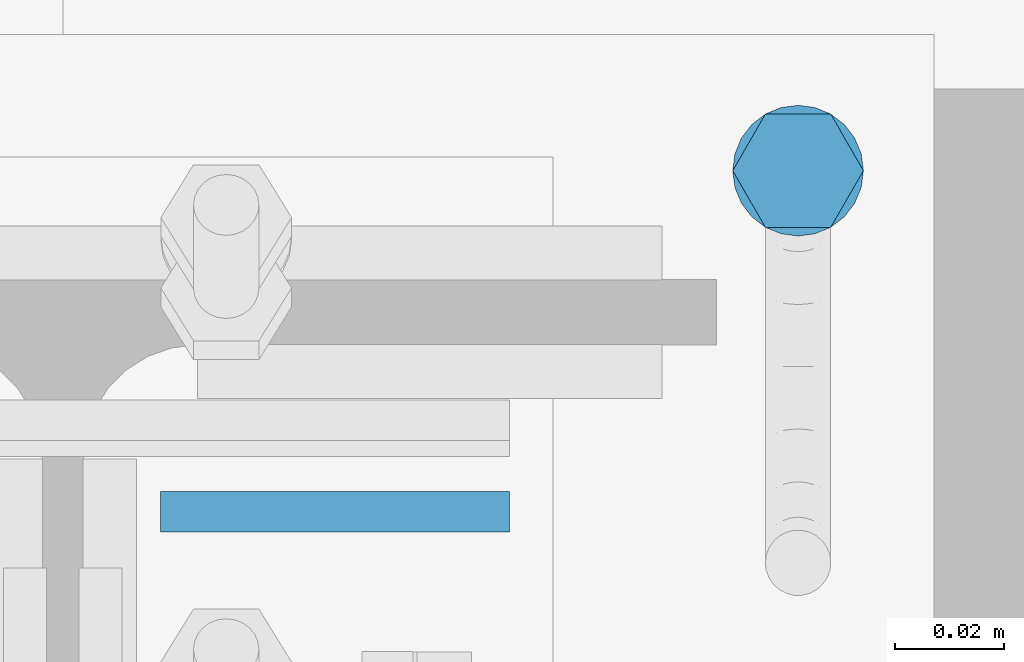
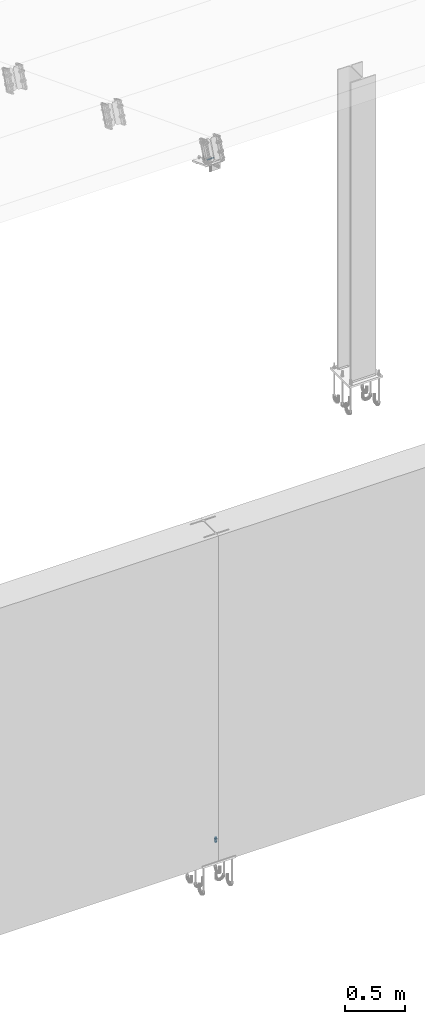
# One storey, part 53 of 72: 5 mechanical fasteners, 1 fastener.
"""IFC4 building model written with IfcOpenShell, lengths in metres."""

from ifc_helpers import new_model, si_unit, frame, origin_with_axes, place, context, project, spatial, polyline, outline, extrude, type_object, element, save


model = new_model("IFC4")

# Units and contexts
model_context = context("Model", 3, precision=1e-05, world=origin_with_axes())
ifc_project = project(units=[si_unit("LENGTHUNIT", "METRE"), si_unit("AREAUNIT", "SQUARE_METRE"), si_unit("VOLUMEUNIT", "CUBIC_METRE"), si_unit("MASSUNIT", "GRAM", prefix="KILO"), si_unit("TIMEUNIT", "SECOND"), si_unit("PLANEANGLEUNIT", "RADIAN"), si_unit("SOLIDANGLEUNIT", "STERADIAN"), si_unit("THERMODYNAMICTEMPERATUREUNIT", "DEGREE_CELSIUS")], contexts=[model_context])

# Site, building, storey
placement_1 = place(None, origin_with_axes())
site = spatial("IfcSite", under=ifc_project, at=placement_1, Name="Italia", CompositionType="ELEMENT")
building = spatial("IfcBuilding", under=site, at=placement_1, Name="Uffici", CompositionType="ELEMENT")
storey = spatial("IfcBuildingStorey", under=building, at=placement_1, Name="Storey 0", CompositionType="ELEMENT", Elevation=0.0)

# Mechanical fasteners
mechanical_fastener_type_1 = type_object("IfcMechanicalFastenerType", Name="Collegamenti 0001_0101 0002_0102 0003_0103 0004_0104 0005_0105 0011_0111 0012_0112 0013_0113 0014_0114 0015_0115", PredefinedType="BOLT")
placement_2 = place(placement_1, origin_with_axes())
mechanical_fastener_1_placement = place(placement_2, origin_with_axes())
element("IfcMechanicalFastener", 1, at=mechanical_fastener_1_placement, inside=storey, type_object=mechanical_fastener_type_1, Name="Collegamenti 0001_0101 0002_0102 0003_0103 0004_0104 0005_0105 0011_0111 0012_0112 0013_0113 0014_0114 0015_0115", NominalDiameter=0.0119998, context=model_context, shape_type="SweptSolid", body=[
    extrude(outline(polyline([(0.0, 0.0), (0.0, 0.0120001), (0.0103923, 0.0179996), (0.0207846, 0.0120001), (0.0207846, 0.0), (0.0103923, -0.00600052), (0.0, 0.0)])), frame((9.596, 0.124608, 0.022), z_axis=(0.0, 0.0, 1.0), x_axis=(0.0, 1.0, 0.0)), (0.0, 0.0, 1.0), 0.0096),
])
mechanical_fastener_type_2 = type_object("IfcMechanicalFastenerType", Name="Collegamenti 0001_0101 0002_0102 0003_0103 0004_0104 0005_0105 0011_0111 0012_0112 0013_0113 0014_0114 0015_0115", PredefinedType="BOLT")
mechanical_fastener_2_placement = place(placement_2, origin_with_axes())
element("IfcMechanicalFastener", 2, at=mechanical_fastener_2_placement, inside=storey, type_object=mechanical_fastener_type_2, Name="Collegamenti 0001_0101 0002_0102 0003_0103 0004_0104 0005_0105 0011_0111 0012_0112 0013_0113 0014_0114 0015_0115", NominalDiameter=0.0119998, context=model_context, shape_type="SweptSolid", body=[
    extrude(outline(polyline([(0.0, 0.0), (0.0, 0.0120001), (0.0103923, 0.0179996), (0.0207846, 0.0120001), (0.0207846, 0.0), (0.0103923, -0.00600052), (0.0, 0.0)])), frame((9.596, 0.124608, 0.0316), z_axis=(0.0, 0.0, 1.0), x_axis=(0.0, 1.0, 0.0)), (0.0, 0.0, 1.0), 0.0096),
])
mechanical_fastener_type_3 = type_object("IfcMechanicalFastenerType", Name="Collegamenti 0001_0101 0002_0102 0003_0103 0004_0104 0005_0105 0011_0111 0012_0112 0013_0113 0014_0114 0015_0115", PredefinedType="BOLT")
mechanical_fastener_3_placement = place(placement_2, origin_with_axes())
element("IfcMechanicalFastener", 3, at=mechanical_fastener_3_placement, inside=storey, type_object=mechanical_fastener_type_3, Name="Collegamenti 0001_0101 0002_0102 0003_0103 0004_0104 0005_0105 0011_0111 0012_0112 0013_0113 0014_0114 0015_0115", NominalDiameter=0.0119998, context=model_context, shape_type="SweptSolid", body=[
    extrude(outline(polyline([(0.0, 0.0), (0.0, 0.0120001), (0.0103923, 0.0179996), (0.0207846, 0.0120001), (0.0207846, 0.0), (0.0103923, -0.00600052), (0.0, 0.0)])), frame((9.596, 0.124608, -0.0116), z_axis=(0.0, 0.0, 1.0), x_axis=(0.0, 1.0, 0.0)), (0.0, 0.0, 1.0), 0.0096),
])
mechanical_fastener_type_4 = type_object("IfcMechanicalFastenerType", Name="Collegamenti 0001_0101 0002_0102 0003_0103 0004_0104 0005_0105 0011_0111 0012_0112 0013_0113 0014_0114 0015_0115", PredefinedType="BOLT")
mechanical_fastener_4_placement = place(placement_2, origin_with_axes())
element("IfcMechanicalFastener", 4, at=mechanical_fastener_4_placement, inside=storey, type_object=mechanical_fastener_type_4, Name="Collegamenti 0001_0101 0002_0102 0003_0103 0004_0104 0005_0105 0011_0111 0012_0112 0013_0113 0014_0114 0015_0115", NominalDiameter=0.024, context=model_context, shape_type="SweptSolid", body=[
    extrude(outline(polyline([(0.0, 0.0), (-0.000408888, -0.00310612), (-0.00160769, -0.00599957), (-0.00351471, -0.00848484), (-0.006, -0.0103922), (-0.00889416, -0.011591), (-0.012, -0.0120001), (-0.0151058, -0.011591), (-0.018, -0.0103922), (-0.0204853, -0.00848484), (-0.0223923, -0.00599957), (-0.0235911, -0.00310612), (-0.024, 0.0), (-0.0235911, 0.00310612), (-0.0223923, 0.00599957), (-0.0204853, 0.00848484), (-0.018, 0.0103922), (-0.0151058, 0.011591), (-0.012, 0.0120001), (-0.00889416, 0.011591), (-0.006, 0.0103922), (-0.00351471, 0.00848484), (-0.00160769, 0.00599957), (-0.000408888, 0.00310612), (0.0, 0.0)])), frame((9.59, 0.147, 0.02), z_axis=(0.0, 0.0, 1.0), x_axis=(0.0, 1.0, 0.0)), (0.0, 0.0, 1.0), 0.002),
])
mechanical_fastener_type_5 = type_object("IfcMechanicalFastenerType", Name="Collegamenti 0001_0101 0002_0102 0003_0103 0004_0104 0005_0105 0011_0111 0012_0112 0013_0113 0014_0114 0015_0115", PredefinedType="BOLT")
mechanical_fastener_5_placement = place(placement_2, origin_with_axes())
element("IfcMechanicalFastener", 5, at=mechanical_fastener_5_placement, inside=storey, type_object=mechanical_fastener_type_5, Name="Collegamenti 0001_0101 0002_0102 0003_0103 0004_0104 0005_0105 0011_0111 0012_0112 0013_0113 0014_0114 0015_0115", NominalDiameter=0.024, context=model_context, shape_type="SweptSolid", body=[
    extrude(outline(polyline([(0.0, 0.0), (-0.000408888, -0.00310612), (-0.00160769, -0.00599957), (-0.00351471, -0.00848484), (-0.006, -0.0103922), (-0.00889416, -0.011591), (-0.012, -0.0120001), (-0.0151058, -0.011591), (-0.018, -0.0103922), (-0.0204853, -0.00848484), (-0.0223923, -0.00599957), (-0.0235911, -0.00310612), (-0.024, 0.0), (-0.0235911, 0.00310612), (-0.0223923, 0.00599957), (-0.0204853, 0.00848484), (-0.018, 0.0103922), (-0.0151058, 0.011591), (-0.012, 0.0120001), (-0.00889416, 0.011591), (-0.006, 0.0103922), (-0.00351471, 0.00848484), (-0.00160769, 0.00599957), (-0.000408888, 0.00310612), (0.0, 0.0)])), frame((9.59, 0.147, -0.002), z_axis=(0.0, 0.0, 1.0), x_axis=(0.0, 1.0, 0.0)), (0.0, 0.0, 1.0), 0.002),
])

# Fastener
fastener_type = type_object("IfcFastenerType", Name="Collegamento 0204_0104", PredefinedType="WELD")
fastener_placement = place(placement_2, origin_with_axes())
element("IfcFastener", 6, at=fastener_placement, inside=storey, type_object=fastener_type, Name="Collegamento 0204_0104", context=model_context, shape_type="SweptSolid", body=[
    extrude(outline(polyline([(0.0, 0.0), (-0.00443701, -0.0104866), (-0.00739191, -0.00286627), (0.0, 0.0)])), frame((9.53705, 0.0686731, 6.96138), z_axis=(-1.0, 0.0, 0.0), x_axis=(0.0, -1.0, 0.0)), (0.0, 0.0, 1.0), 0.0641003),
])

save(model, "model.ifc")
